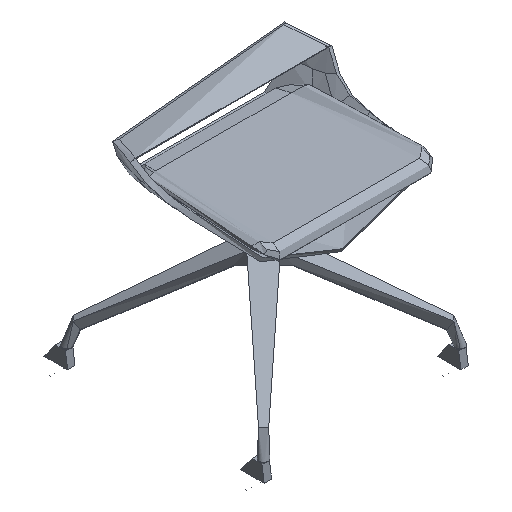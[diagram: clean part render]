
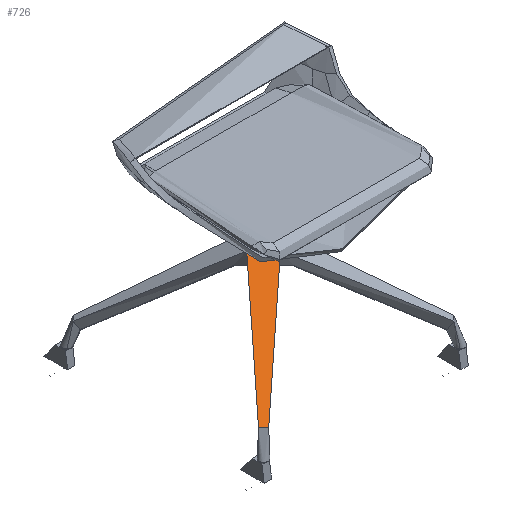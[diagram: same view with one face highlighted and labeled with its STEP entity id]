
A CAD part, isometric view. The second image highlights one B-rep face of the part: STEP entity #726.
In plain terms, the highlighted free-form (B-spline) face has degree [1, 2] with [2, 3] control points.
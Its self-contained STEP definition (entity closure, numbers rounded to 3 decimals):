
#232=(
BOUNDED_CURVE()
B_SPLINE_CURVE(2,(#27138,#27139,#27140),.UNSPECIFIED.,.F.,.F.)
B_SPLINE_CURVE_WITH_KNOTS((3,3),(0.,565.759),.UNSPECIFIED.)
CURVE()
GEOMETRIC_REPRESENTATION_ITEM()
RATIONAL_B_SPLINE_CURVE((1.,0.707,1.))
REPRESENTATION_ITEM('')
);
#343=(
BOUNDED_SURFACE()
B_SPLINE_SURFACE(1,2,((#24054,#24055,#24056),(#24057,#24058,#24059)),
 .UNSPECIFIED.,.F.,.F.,.F.)
B_SPLINE_SURFACE_WITH_KNOTS((2,2),(3,3),(-15.092,357.439),
(0.,565.759),.UNSPECIFIED.)
GEOMETRIC_REPRESENTATION_ITEM()
RATIONAL_B_SPLINE_SURFACE(((1.,0.707,1.),(1.,0.707,
1.)))
REPRESENTATION_ITEM('')
SURFACE()
);
#726=ADVANCED_FACE('',(#985),#343,.T.);
#985=FACE_OUTER_BOUND('',#1244,.T.);
#1244=EDGE_LOOP('',(#2289,#2290,#2291,#2292,#2293,#2294));
#2289=ORIENTED_EDGE('',*,*,#2948,.F.);
#2290=ORIENTED_EDGE('',*,*,#2947,.T.);
#2291=ORIENTED_EDGE('',*,*,#2875,.F.);
#2292=ORIENTED_EDGE('',*,*,#2953,.F.);
#2293=ORIENTED_EDGE('',*,*,#2949,.F.);
#2294=ORIENTED_EDGE('',*,*,#2951,.T.);
#2875=EDGE_CURVE('',#3655,#3653,#3292,.T.);
#2947=EDGE_CURVE('',#3695,#3653,#232,.T.);
#2948=EDGE_CURVE('',#3695,#3696,#3327,.T.);
#2949=EDGE_CURVE('',#3686,#3687,#3328,.T.);
#2951=EDGE_CURVE('',#3686,#3696,#3329,.T.);
#2953=EDGE_CURVE('',#3687,#3655,#3331,.T.);
#3292=B_SPLINE_CURVE_WITH_KNOTS('',1,(#26245,#26246),.UNSPECIFIED.,.F.,
 .F.,(2,2),(350.565,357.439),.UNSPECIFIED.);
#3327=B_SPLINE_CURVE_WITH_KNOTS('',1,(#27141,#27142),.UNSPECIFIED.,.F.,
 .F.,(2,2),(-357.439,-350.565),.UNSPECIFIED.);
#3328=B_SPLINE_CURVE_WITH_KNOTS('',3,(#27143,#27144,#27145,#27146,#27147,
#27148,#27149,#27150,#27151,#27152,#27153,#27154,#27155,#27156,#27157,#27158,
#27159,#27160,#27161,#27162,#27163,#27164,#27165,#27166,#27167,#27168,#27169),
 .UNSPECIFIED.,.F.,.F.,(4,3,2,3,2,3,2,3,2,3,4),(344.615,356.617,
360.657,364.7,368.404,372.121,375.837,
379.541,383.584,387.624,399.626),
 .UNSPECIFIED.);
#3329=B_SPLINE_CURVE_WITH_KNOTS('',3,(#27173,#27174,#27175,#27176,#27177,
#27178,#27179,#27180,#27181,#27182,#27183,#27184,#27185,#27186,#27187,#27188,
#27189,#27190,#27191,#27192,#27193,#27194,#27195,#27196),.UNSPECIFIED.,
 .F.,.F.,(4,2,2,2,2,2,2,2,2,2,2,4),(-337.679,-253.259,
-168.84,-126.63,-84.42,-63.315,
-42.21,-36.934,-31.657,-21.105,
-10.552,0.),.UNSPECIFIED.);
#3331=B_SPLINE_CURVE_WITH_KNOTS('',3,(#27199,#27200,#27201,#27202,#27203,
#27204,#27205,#27206,#27207,#27208,#27209,#27210,#27211,#27212,#27213,#27214,
#27215,#27216,#27217,#27218,#27219,#27220,#27221,#27222),.UNSPECIFIED.,
 .F.,.F.,(4,2,2,2,2,2,2,2,2,2,2,4),(-337.679,-253.259,
-168.84,-126.63,-84.42,-63.315,
-42.21,-36.934,-31.657,-21.105,
-10.552,0.),.UNSPECIFIED.);
#3653=VERTEX_POINT('',#26130);
#3655=VERTEX_POINT('',#26132);
#3686=VERTEX_POINT('',#26163);
#3687=VERTEX_POINT('',#26164);
#3695=VERTEX_POINT('',#26172);
#3696=VERTEX_POINT('',#26173);
#24054=CARTESIAN_POINT('',(0.,-360.174,102.554));
#24055=CARTESIAN_POINT('',(-360.174,-360.174,102.554));
#24056=CARTESIAN_POINT('',(-360.174,0.,102.554));
#24057=CARTESIAN_POINT('',(0.,-35.,286.348));
#24058=CARTESIAN_POINT('',(-35.,-35.,286.348));
#24059=CARTESIAN_POINT('',(-35.,0.,286.348));
#26130=CARTESIAN_POINT('',(-35.,0.,286.348));
#26132=CARTESIAN_POINT('',(-41.,0.,282.957));
#26163=CARTESIAN_POINT('',(-225.099,-237.523,121.168));
#26164=CARTESIAN_POINT('',(-237.523,-225.099,121.168));
#26172=CARTESIAN_POINT('',(0.,-35.,286.348));
#26173=CARTESIAN_POINT('',(0.,-41.,282.957));
#26245=CARTESIAN_POINT('',(-41.,0.,282.957));
#26246=CARTESIAN_POINT('',(-35.,0.,286.348));
#27138=CARTESIAN_POINT('',(0.,-35.,286.348));
#27139=CARTESIAN_POINT('',(-35.,-35.,286.348));
#27140=CARTESIAN_POINT('',(-35.,0.,286.348));
#27141=CARTESIAN_POINT('',(0.,-35.,286.348));
#27142=CARTESIAN_POINT('',(0.,-41.,282.957));
#27143=CARTESIAN_POINT('',(-225.099,-237.523,121.168));
#27144=CARTESIAN_POINT('',(-227.55,-240.068,119.171));
#27145=CARTESIAN_POINT('',(-230.017,-242.635,117.158));
#27146=CARTESIAN_POINT('',(-232.505,-245.23,115.127));
#27147=CARTESIAN_POINT('',(-233.312,-246.072,114.468));
#27148=CARTESIAN_POINT('',(-234.282,-246.757,113.809));
#27149=CARTESIAN_POINT('',(-236.457,-247.716,112.569));
#27150=CARTESIAN_POINT('',(-237.658,-247.988,111.989));
#27151=CARTESIAN_POINT('',(-238.907,-248.002,111.494));
#27152=CARTESIAN_POINT('',(-240.05,-248.014,111.041));
#27153=CARTESIAN_POINT('',(-241.216,-247.808,110.666));
#27154=CARTESIAN_POINT('',(-243.456,-246.916,110.14));
#27155=CARTESIAN_POINT('',(-244.491,-246.241,110.));
#27156=CARTESIAN_POINT('',(-245.366,-245.366,110.));
#27157=CARTESIAN_POINT('',(-246.241,-244.491,110.));
#27158=CARTESIAN_POINT('',(-246.916,-243.456,110.14));
#27159=CARTESIAN_POINT('',(-247.808,-241.216,110.666));
#27160=CARTESIAN_POINT('',(-248.014,-240.05,111.041));
#27161=CARTESIAN_POINT('',(-248.002,-238.907,111.494));
#27162=CARTESIAN_POINT('',(-247.988,-237.658,111.989));
#27163=CARTESIAN_POINT('',(-247.716,-236.457,112.569));
#27164=CARTESIAN_POINT('',(-246.757,-234.282,113.809));
#27165=CARTESIAN_POINT('',(-246.072,-233.312,114.468));
#27166=CARTESIAN_POINT('',(-245.23,-232.505,115.127));
#27167=CARTESIAN_POINT('',(-242.635,-230.017,117.158));
#27168=CARTESIAN_POINT('',(-240.068,-227.55,119.171));
#27169=CARTESIAN_POINT('',(-237.523,-225.099,121.168));
#27173=CARTESIAN_POINT('',(-225.099,-237.523,121.168));
#27174=CARTESIAN_POINT('',(-207.781,-219.538,135.28));
#27175=CARTESIAN_POINT('',(-190.301,-201.711,149.39));
#27176=CARTESIAN_POINT('',(-155.064,-166.323,177.604));
#27177=CARTESIAN_POINT('',(-137.344,-148.726,191.709));
#27178=CARTESIAN_POINT('',(-110.59,-122.501,212.85));
#27179=CARTESIAN_POINT('',(-101.649,-113.779,219.896));
#27180=CARTESIAN_POINT('',(-83.695,-96.403,233.973));
#27181=CARTESIAN_POINT('',(-74.691,-87.738,241.01));
#27182=CARTESIAN_POINT('',(-61.032,-74.88,251.53));
#27183=CARTESIAN_POINT('',(-56.468,-70.601,255.037));
#27184=CARTESIAN_POINT('',(-47.102,-62.274,262.001));
#27185=CARTESIAN_POINT('',(-42.3,-58.22,265.471));
#27186=CARTESIAN_POINT('',(-35.854,-53.621,269.674));
#27187=CARTESIAN_POINT('',(-34.541,-52.728,270.505));
#27188=CARTESIAN_POINT('',(-31.86,-51.,272.143));
#27189=CARTESIAN_POINT('',(-30.494,-50.168,272.951));
#27190=CARTESIAN_POINT('',(-26.297,-47.781,275.317));
#27191=CARTESIAN_POINT('',(-23.373,-46.333,276.827));
#27192=CARTESIAN_POINT('',(-17.213,-43.858,279.531));
#27193=CARTESIAN_POINT('',(-13.969,-42.83,280.727));
#27194=CARTESIAN_POINT('',(-7.159,-41.392,282.452));
#27195=CARTESIAN_POINT('',(-3.588,-40.997,282.96));
#27196=CARTESIAN_POINT('',(0.,-41.,282.957));
#27199=CARTESIAN_POINT('',(-237.523,-225.099,121.168));
#27200=CARTESIAN_POINT('',(-219.538,-207.781,135.28));
#27201=CARTESIAN_POINT('',(-201.711,-190.301,149.39));
#27202=CARTESIAN_POINT('',(-166.323,-155.064,177.604));
#27203=CARTESIAN_POINT('',(-148.726,-137.344,191.709));
#27204=CARTESIAN_POINT('',(-122.501,-110.59,212.85));
#27205=CARTESIAN_POINT('',(-113.779,-101.649,219.896));
#27206=CARTESIAN_POINT('',(-96.403,-83.695,233.973));
#27207=CARTESIAN_POINT('',(-87.738,-74.691,241.01));
#27208=CARTESIAN_POINT('',(-74.88,-61.032,251.53));
#27209=CARTESIAN_POINT('',(-70.601,-56.468,255.037));
#27210=CARTESIAN_POINT('',(-62.274,-47.102,262.001));
#27211=CARTESIAN_POINT('',(-58.22,-42.3,265.471));
#27212=CARTESIAN_POINT('',(-53.621,-35.854,269.674));
#27213=CARTESIAN_POINT('',(-52.728,-34.541,270.505));
#27214=CARTESIAN_POINT('',(-51.,-31.86,272.143));
#27215=CARTESIAN_POINT('',(-50.168,-30.494,272.951));
#27216=CARTESIAN_POINT('',(-47.781,-26.297,275.317));
#27217=CARTESIAN_POINT('',(-46.333,-23.373,276.827));
#27218=CARTESIAN_POINT('',(-43.858,-17.213,279.531));
#27219=CARTESIAN_POINT('',(-42.83,-13.969,280.727));
#27220=CARTESIAN_POINT('',(-41.392,-7.159,282.452));
#27221=CARTESIAN_POINT('',(-40.997,-3.588,282.96));
#27222=CARTESIAN_POINT('',(-41.,0.,282.957));
